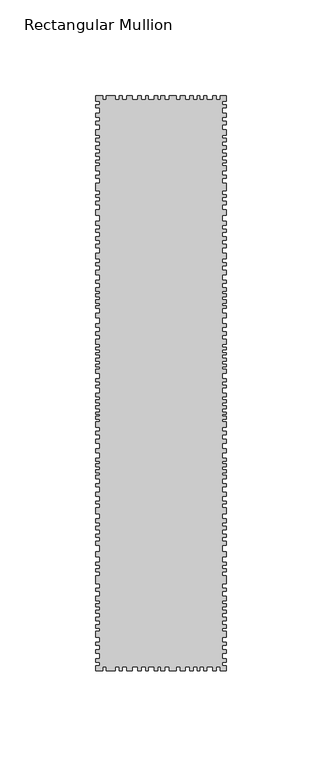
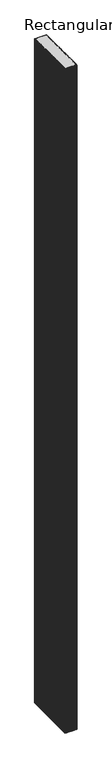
"""IFC4 building model written with IfcOpenShell, lengths in millimetres: member geometry, Rectangular Mullion : DucoSun Cubic Design louvre 300."""

from ifc_helpers import new_model, si_unit, frame, origin, place, context, project, spatial, polyline, outline, extrude, source, transform, mapped, element, save


def rectangular_mullion_3092dc87(model_context):
    return source(origin(), model_context, "Body", "SweptSolid", [
        extrude(outline(polyline([(-68.0, -297.3782451), (-66.0, -297.3782451), (-66.0, -295.4241521), (-68.0, -295.4241521), (-68.0, -293.6532553), (-66.0, -293.6532553), (-66.0, -290.9460223), (-68.0, -290.9460223), (-68.0, -288.9105087), (-66.0, -288.9105087), (-66.0, -286.7121541), (-68.0, -286.7121541), (-68.0, -285.0023227), (-66.0, -285.0023227), (-66.0, -282.3561551), (-68.0, -282.3561551), (-68.0, -279.3843053), (-66.0, -279.3843053), (-66.0, -277.8917893), (-68.0, -277.8917893), (-68.0, -275.8425117), (-66.0, -275.8425117), (-66.0, -273.8680636), (-68.0, -273.8680636), (-68.0, -272.1582322), (-66.0, -272.1582322), (-66.0, -270.0820083), (-68.0, -270.0820083), (-68.0, -268.3111116), (-66.0, -268.3111116), (-66.0, -266.4995045), (-68.0, -266.4995045), (-68.0, -265.0713495), (-66.0, -265.0713495), (-66.0, -263.4577392), (-68.0, -263.4577392), (-68.0, -261.0328231), (-66.0, -261.0328231), (-66.0, -258.5725067), (-68.0, -258.5725067), (-68.0, -257.0325964), (-66.0, -257.0325964), (-66.0, -254.5014796), (-68.0, -254.5014796), (-68.0, -250.4127524), (-66.0, -250.4127524), (-66.0, -248.4126391), (-68.0, -248.4126391), (-68.0, -246.8373286), (-66.0, -246.8373286), (-66.0, -244.9965163), (-68.0, -244.9965163), (-68.0, -243.3504053), (-66.0, -243.3504053), (-66.0, -240.3767855), (-68.0, -240.3767855), (-68.0, -237.9545244), (-66.0, -237.9545244), (-66.0, -234.5552168), (-68.0, -234.5552168), (-68.0, -232.5197032), (-66.0, -232.5197032), (-66.0, -230.239928), (-68.0, -230.239928), (-68.0, -228.6929377), (-66.0, -228.6929377), (-66.0, -226.4335177), (-68.0, -226.4335177), (-68.0, -224.5608452), (-66.0, -224.5608452), (-66.0, -222.6271073), (-68.0, -222.6271073), (-68.0, -220.5508835), (-66.0, -220.5508835), (-66.0, -218.0064916), (-68.0, -218.0064916), (-68.0, -214.9328661), (-66.0, -214.9328661), (-66.0, -212.9177077), (-68.0, -212.9177077), (-68.0, -211.4114277), (-66.0, -211.4114277), (-66.0, -208.9688114), (-68.0, -208.9688114), (-68.0, -206.7118273), (-66.0, -206.7118273), (-66.0, -203.8852623), (-68.0, -203.8852623), (-68.0, -202.4316003), (-66.0, -202.4316003), (-66.0, -199.9011516), (-68.0, -199.9011516), (-68.0, -197.8552569), (-66.0, -197.8552569), (-66.0, -196.6169522), (-68.0, -196.6169522), (-68.0, -195.0825312), (-66.0, -195.0825312), (-66.0, -193.4673512), (-68.0, -193.4673512), (-68.0, -192.0675286), (-66.0, -192.0675286), (-66.0, -190.5869469), (-68.0, -190.5869469), (-68.0, -189.1602046), (-66.0, -189.1602046), (-66.0, -186.3310055), (-68.0, -186.3310055), (-68.0, -184.2608252), (-66.0, -184.2608252), (-66.0, -181.1919832), (-68.0, -181.1919832), (-68.0, -179.2537672), (-66.0, -179.2537672), (-66.0, -176.9360418), (-68.0, -176.9360418), (-68.0, -175.0004598), (-66.0, -175.0004598), (-66.0, -172.9007258), (-68.0, -172.9007258), (-68.0, -170.1010805), (-66.0, -170.1010805), (-66.0, -168.8089365), (-68.0, -168.8089365), (-68.0, -167.3014351), (-66.0, -167.3014351), (-66.0, -166.0362108), (-68.0, -166.0362108), (-68.0, -165.0401831), (-66.0, -165.0401831), (-66.0, -163.2096458), (-68.0, -163.2096458), (-68.0, -161.6483051), (-66.0, -161.6483051), (-66.0, -160.1408038), (-68.0, -160.1408038), (-68.0, -158.6063828), (-66.0, -158.6063828), (-66.0, -157.0719618), (-68.0, -157.0719618), (-68.0, -155.0799064), (-66.0, -155.0799064), (-66.0, -152.3762692), (-68.0, -152.3762692), (-68.0, -150.8903036), (-66.0, -150.8903036), (-66.0, -149.1257194), (-68.0, -149.1257194), (-68.0, -147.6087962), (-66.0, -147.6087962), (-66.0, -144.8535683), (-68.0, -144.8535683), (-68.0, -142.7484504), (-66.0, -142.7484504), (-66.0, -141.4172729), (-68.0, -141.4172729), (-68.0, -139.9622649), (-66.0, -139.9622649), (-66.0, -138.3524688), (-68.0, -138.3524688), (-68.0, -136.8355456), (-66.0, -136.8355456), (-66.0, -135.1947919), (-68.0, -135.1947919), (-68.0, -133.9255296), (-66.0, -133.9255296), (-66.0, -132.5014792), (-68.0, -132.5014792), (-68.0, -131.1083865), (-66.0, -131.1083865), (-66.0, -129.6843361), (-68.0, -129.6843361), (-68.0, -127.0529387), (-66.0, -127.0529387), (-66.0, -124.9787784), (-68.0, -124.9787784), (-68.0, -123.0284485), (-66.0, -123.0284485), (-66.0, -120.7995001), (-68.0, -120.7995001), (-68.0, -118.8182126), (-66.0, -118.8182126), (-66.0, -115.6914933), (-68.0, -115.6914933), (-68.0, -113.4935025), (-66.0, -113.4935025), (-66.0, -110.954978), (-68.0, -110.954978), (-68.0, -109.4070971), (-66.0, -109.4070971), (-66.0, -108.1378348), (-68.0, -108.1378348), (-68.0, -106.4970812), (-66.0, -106.4970812), (-66.0, -104.8253698), (-68.0, -104.8253698), (-68.0, -103.3394042), (-66.0, -103.3394042), (-66.0, -102.0391843), (-68.0, -102.0391843), (-68.0, -100.0578969), (-66.0, -100.0578969), (-66.0, -97.6741604), (-68.0, -97.6741604), (-68.0, -96.0953219), (-66.0, -96.0953219), (-66.0, -93.3091364), (-68.0, -93.3091364), (-68.0, -91.0182728), (-66.0, -91.0182728), (-66.0, -88.572621), (-68.0, -88.572621), (-68.0, -87.1485707), (-66.0, -87.1485707), (-66.0, -85.0124951), (-68.0, -85.0124951), (-68.0, -82.1643944), (-66.0, -82.1643944), (-66.0, -79.3782089), (-68.0, -79.3782089), (-68.0, -77.427879), (-66.0, -77.427879), (-66.0, -75.4156339), (-68.0, -75.4156339), (-68.0, -73.6510498), (-66.0, -73.6510498), (-66.0, -71.1744404), (-68.0, -71.1744404), (-68.0, -69.6884748), (-66.0, -69.6884748), (-66.0, -67.5523993), (-68.0, -67.5523993), (-68.0, -65.4163237), (-66.0, -65.4163237), (-66.0, -62.1967316), (-68.0, -62.1967316), (-68.0, -59.5343765), (-66.0, -59.5343765), (-66.0, -56.7791486), (-68.0, -56.7791486), (-68.0, -55.0764797), (-66.0, -55.0764797), (-66.0, -52.9404041), (-68.0, -52.9404041), (-68.0, -51.6092266), (-66.0, -51.6092266), (-66.0, -49.5660239), (-68.0, -49.5660239), (-68.0, -45.512038), (-66.0, -45.512038), (-66.0, -43.0030092), (-68.0, -43.0030092), (-68.0, -41.3312979), (-66.0, -41.3312979), (-66.0, -39.0404342), (-68.0, -39.0404342), (-68.0, -36.5638249), (-66.0, -36.5638249), (-66.0, -35.015944), (-68.0, -35.015944), (-68.0, -33.5609361), (-66.0, -33.5609361), (-66.0, -31.5796486), (-68.0, -31.5796486), (-68.0, -30.0627254), (-66.0, -30.0627254), (-66.0, -27.8337769), (-68.0, -27.8337769), (-68.0, -26.1620656), (-66.0, -26.1620656), (-66.0, -24.0259901), (-68.0, -24.0259901), (-68.0, -22.0756602), (-66.0, -22.0756602), (-66.0, -20.6516099), (-68.0, -20.6516099), (-68.0, -17.7415939), (-66.0, -17.7415939), (-66.0, -15.2030693), (-68.0, -15.2030693), (-68.0, -13.1908242), (-66.0, -13.1908242), (-66.0, -11.2404944), (-68.0, -11.2404944), (-68.0, -9.1353764), (-66.0, -9.1353764), (-66.0, -6.2563181), (-68.0, -6.2563181), (-68.0, -4.6155644), (-66.0, -4.6155644), (-66.0, -2.8509802), (-68.0, -2.8509802), (-68.0, 0.0), (-64.4544414, 0.0), (-64.4544414, -2.0), (-62.627942, -2.0), (-62.627942, 0.0), (-57.9842994, 0.0), (-57.9842994, -2.0), (-55.8172663, -2.0), (-55.8172663, 0.0), (-54.3003431, 0.0), (-54.3003431, -2.0), (-51.9475642, -2.0), (-51.9475642, 0.0), (-48.8827601, 0.0), (-48.8827601, -2.0), (-46.0965746, -2.0), (-46.0965746, 0.0), (-44.3939057, 0.0), (-44.3939057, -2.0), (-42.0101692, -2.0), (-42.0101692, 0.0), (-40.5242036, 0.0), (-40.5242036, -2.0), (-37.4884678, -2.0), (-37.4884678, 0.0), (-35.7094289, 0.0), (-35.7094289, -2.0), (-34.0, -2.0), (-34.0, 0.0), (-32.1513512, 0.0), (-32.1513512, -2.0), (-29.7871022, -2.0), (-29.7871022, 0.0), (-26.0183489, 0.0), (-26.0183489, -2.0), (-23.9584092, -2.0), (-23.9584092, 0.0), (-21.2664425, 0.0), (-21.2664425, -2.0), (-18.9958271, -2.0), (-18.9958271, 0.0), (-17.1231547, 0.0), (-17.1231547, -2.0), (-15.0632149, -2.0), (-15.0632149, 0.0), (-13.7289358, 0.0), (-13.7289358, -2.0), (-11.6924045, -2.0), (-11.6924045, 0.0), (-10.1006329, 0.0), (-10.1006329, -2.0), (-7.0341317, -2.0), (-7.0341317, 0.0), (-5.0678256, 0.0), (-5.0678256, -2.0), (-3.1249279, -2.0), (-3.1249279, 0.0), (0.0, 0.0), (0.0, -2.8509802), (-2.0, -2.8509802), (-2.0, -4.6155644), (0.0, -4.6155644), (0.0, -6.2563181), (-2.0, -6.2563181), (-2.0, -9.1353764), (0.0, -9.1353764), (0.0, -11.2404944), (-2.0, -11.2404944), (-2.0, -13.1908242), (0.0, -13.1908242), (0.0, -15.2030693), (-2.0, -15.2030693), (-2.0, -17.7415939), (0.0, -17.7415939), (0.0, -20.6516099), (-2.0, -20.6516099), (-2.0, -22.0756602), (0.0, -22.0756602), (0.0, -24.0259901), (-2.0, -24.0259901), (-2.0, -26.1620656), (0.0, -26.1620656), (0.0, -27.8337769), (-2.0, -27.8337769), (-2.0, -30.0627254), (0.0, -30.0627254), (0.0, -31.5796486), (-2.0, -31.5796486), (-2.0, -33.5609361), (0.0, -33.5609361), (0.0, -35.015944), (-2.0, -35.015944), (-2.0, -36.5638249), (0.0, -36.5638249), (0.0, -39.0404342), (-2.0, -39.0404342), (-2.0, -41.3312979), (0.0, -41.3312979), (0.0, -43.0030092), (-2.0, -43.0030092), (-2.0, -45.512038), (0.0, -45.512038), (0.0, -49.5660239), (-2.0, -49.5660239), (-2.0, -51.6092266), (0.0, -51.6092266), (0.0, -52.9404041), (-2.0, -52.9404041), (-2.0, -55.0764797), (0.0, -55.0764797), (0.0, -56.7791486), (-2.0, -56.7791486), (-2.0, -59.5343765), (0.0, -59.5343765), (0.0, -62.1967316), (-2.0, -62.1967316), (-2.0, -65.4163237), (0.0, -65.4163237), (0.0, -67.5523993), (-2.0, -67.5523993), (-2.0, -69.6884748), (0.0, -69.6884748), (0.0, -71.1744404), (-2.0, -71.1744404), (-2.0, -73.6510498), (0.0, -73.6510498), (0.0, -75.4156339), (-2.0, -75.4156339), (-2.0, -77.427879), (0.0, -77.427879), (0.0, -79.3782089), (-2.0, -79.3782089), (-2.0, -82.1643944), (0.0, -82.1643944), (0.0, -85.0124951), (-2.0, -85.0124951), (-2.0, -87.1485707), (0.0, -87.1485707), (0.0, -88.572621), (-2.0, -88.572621), (-2.0, -91.0182728), (0.0, -91.0182728), (0.0, -93.3091364), (-2.0, -93.3091364), (-2.0, -96.0953219), (0.0, -96.0953219), (0.0, -97.6741604), (-2.0, -97.6741604), (-2.0, -100.0578969), (0.0, -100.0578969), (0.0, -102.0391843), (-2.0, -102.0391843), (-2.0, -103.3394042), (0.0, -103.3394042), (0.0, -104.8253698), (-2.0, -104.8253698), (-2.0, -106.4970812), (0.0, -106.4970812), (0.0, -108.1378348), (-2.0, -108.1378348), (-2.0, -109.4070971), (0.0, -109.4070971), (0.0, -110.954978), (-2.0, -110.954978), (-2.0, -113.4935025), (0.0, -113.4935025), (0.0, -115.6914933), (-2.0, -115.6914933), (-2.0, -118.8182126), (0.0, -118.8182126), (0.0, -120.7995001), (-2.0, -120.7995001), (-2.0, -123.0284485), (0.0, -123.0284485), (0.0, -124.9787784), (-2.0, -124.9787784), (-2.0, -127.0529387), (0.0, -127.0529387), (0.0, -129.6843361), (-2.0, -129.6843361), (-2.0, -131.1083865), (0.0, -131.1083865), (0.0, -132.5014792), (-2.0, -132.5014792), (-2.0, -133.9255296), (0.0, -133.9255296), (0.0, -135.1947919), (-2.0, -135.1947919), (-2.0, -136.8355456), (0.0, -136.8355456), (0.0, -138.3524688), (-2.0, -138.3524688), (-2.0, -139.9622649), (0.0, -139.9622649), (0.0, -141.4172729), (-2.0, -141.4172729), (-2.0, -142.7484504), (0.0, -142.7484504), (0.0, -144.8535683), (-2.0, -144.8535683), (-2.0, -147.6087962), (0.0, -147.6087962), (0.0, -149.1257194), (-2.0, -149.1257194), (-2.0, -150.8903036), (0.0, -150.8903036), (0.0, -152.3762692), (-2.0, -152.3762692), (-2.0, -155.0799064), (0.0, -155.0799064), (0.0, -157.0719618), (-2.0, -157.0719618), (-2.0, -158.6063828), (0.0, -158.6063828), (0.0, -160.1408038), (-2.0, -160.1408038), (-2.0, -161.6483051), (0.0, -161.6483051), (0.0, -163.2096458), (-2.0, -163.2096458), (-2.0, -165.0401831), (0.0, -165.0401831), (0.0, -166.0362108), (-2.0, -166.0362108), (-2.0, -167.3014351), (0.0, -167.3014351), (0.0, -168.8089365), (-2.0, -168.8089365), (-2.0, -170.1010805), (0.0, -170.1010805), (0.0, -172.9007258), (-2.0, -172.9007258), (-2.0, -175.0004598), (0.0, -175.0004598), (0.0, -176.9360418), (-2.0, -176.9360418), (-2.0, -179.2537672), (0.0, -179.2537672), (0.0, -181.1919832), (-2.0, -181.1919832), (-2.0, -184.2608252), (0.0, -184.2608252), (0.0, -186.3310055), (-2.0, -186.3310055), (-2.0, -189.1602046), (0.0, -189.1602046), (0.0, -190.5869469), (-2.0, -190.5869469), (-2.0, -192.0675286), (0.0, -192.0675286), (0.0, -193.4673512), (-2.0, -193.4673512), (-2.0, -195.0825312), (0.0, -195.0825312), (0.0, -196.6169522), (-2.0, -196.6169522), (-2.0, -197.8552569), (0.0, -197.8552569), (0.0, -199.9011516), (-2.0, -199.9011516), (-2.0, -202.4316003), (0.0, -202.4316003), (0.0, -203.8852623), (-2.0, -203.8852623), (-2.0, -206.7118273), (0.0, -206.7118273), (0.0, -208.9688114), (-2.0, -208.9688114), (-2.0, -211.4114277), (0.0, -211.4114277), (0.0, -212.9177077), (-2.0, -212.9177077), (-2.0, -214.9328661), (0.0, -214.9328661), (0.0, -218.0064916), (-2.0, -218.0064916), (-2.0, -220.5508835), (0.0, -220.5508835), (0.0, -222.6271073), (-2.0, -222.6271073), (-2.0, -224.5608452), (0.0, -224.5608452), (0.0, -226.4335177), (-2.0, -226.4335177), (-2.0, -228.6929377), (0.0, -228.6929377), (0.0, -230.239928), (-2.0, -230.239928), (-2.0, -232.5197032), (0.0, -232.5197032), (0.0, -234.5552168), (-2.0, -234.5552168), (-2.0, -237.9545244), (0.0, -237.9545244), (0.0, -240.3767855), (-2.0, -240.3767855), (-2.0, -243.3504053), (0.0, -243.3504053), (0.0, -244.9965163), (-2.0, -244.9965163), (-2.0, -246.8373286), (0.0, -246.8373286), (0.0, -248.4126391), (-2.0, -248.4126391), (-2.0, -250.4127524), (0.0, -250.4127524), (0.0, -254.5014796), (-2.0, -254.5014796), (-2.0, -257.0325964), (0.0, -257.0325964), (0.0, -258.5725067), (-2.0, -258.5725067), (-2.0, -261.0328231), (0.0, -261.0328231), (0.0, -263.4577392), (-2.0, -263.4577392), (-2.0, -265.0713495), (0.0, -265.0713495), (0.0, -266.4995045), (-2.0, -266.4995045), (-2.0, -268.3111116), (0.0, -268.3111116), (0.0, -270.0820083), (-2.0, -270.0820083), (-2.0, -272.1582322), (0.0, -272.1582322), (0.0, -273.8680636), (-2.0, -273.8680636), (-2.0, -275.8425117), (0.0, -275.8425117), (0.0, -277.8917893), (-2.0, -277.8917893), (-2.0, -279.3843053), (0.0, -279.3843053), (0.0, -282.3561551), (-2.0, -282.3561551), (-2.0, -285.0023227), (0.0, -285.0023227), (0.0, -286.7121541), (-2.0, -286.7121541), (-2.0, -288.9105087), (0.0, -288.9105087), (0.0, -290.9460223), (-2.0, -290.9460223), (-2.0, -293.6532553), (0.0, -293.6532553), (0.0, -295.4241521), (-2.0, -295.4241521), (-2.0, -297.3782451), (0.0, -297.3782451), (0.0, -300.0), (-3.1249279, -300.0), (-3.1249279, -298.0), (-5.0678256, -298.0), (-5.0678256, -300.0), (-7.0341317, -300.0), (-7.0341317, -298.0), (-10.1006329, -298.0), (-10.1006329, -300.0), (-11.6924045, -300.0), (-11.6924045, -298.0), (-13.7289358, -298.0), (-13.7289358, -300.0), (-15.0632149, -300.0), (-15.0632149, -298.0), (-17.1231547, -298.0), (-17.1231547, -300.0), (-18.9958271, -300.0), (-18.9958271, -298.0), (-21.2664425, -298.0), (-21.2664425, -300.0), (-23.9584092, -300.0), (-23.9584092, -298.0), (-26.0183489, -298.0), (-26.0183489, -300.0), (-29.7871022, -300.0), (-29.7871022, -298.0), (-32.1513512, -298.0), (-32.1513512, -300.0), (-34.0, -300.0), (-34.0, -298.0), (-35.7094289, -298.0), (-35.7094289, -300.0), (-37.4884678, -300.0), (-37.4884678, -298.0), (-40.5242036, -298.0), (-40.5242036, -300.0), (-42.0101692, -300.0), (-42.0101692, -298.0), (-44.3939057, -298.0), (-44.3939057, -300.0), (-46.0965746, -300.0), (-46.0965746, -298.0), (-48.8827601, -298.0), (-48.8827601, -300.0), (-51.9475642, -300.0), (-51.9475642, -298.0), (-54.3003431, -298.0), (-54.3003431, -300.0), (-55.8172663, -300.0), (-55.8172663, -298.0), (-57.9842994, -298.0), (-57.9842994, -300.0), (-62.627942, -300.0), (-62.627942, -298.0), (-64.4544414, -298.0), (-64.4544414, -300.0), (-68.0, -300.0), (-68.0, -297.3782451)])), frame((0.0, 0.0, -4000.0), z_axis=(0.0, 0.0, 1.0), x_axis=(1.0, 0.0, 0.0)), (0.0, 0.0, 1.0), 4000.0),
    ])


if __name__ == "__main__":
    model = new_model("IFC4")
    model_context = context("Model", 3, world=origin())
    ifc_project = project(units=[si_unit("LENGTHUNIT", "METRE", prefix="MILLI")], contexts=[model_context])
    site = spatial("IfcSite", under=ifc_project)
    building = spatial("IfcBuilding", under=site)
    placement = place(None, origin())
    rectangular_mullion_shape = rectangular_mullion_3092dc87(model_context)
    element("IfcMember", 1, ObjectType="Rectangular Mullion : DucoSun Cubic Design louvre 300", at=placement, inside=building, context=model_context, shape_type="MappedRepresentation", body=[
        mapped(rectangular_mullion_shape, transform((0.0, 0.0, 0.0), x_axis=(1.0, 0.0, 0.0), y_axis=(0.0, 1.0, 0.0), z_axis=(0.0, 0.0, 1.0))),
    ])
    save(model, "model.ifc")
